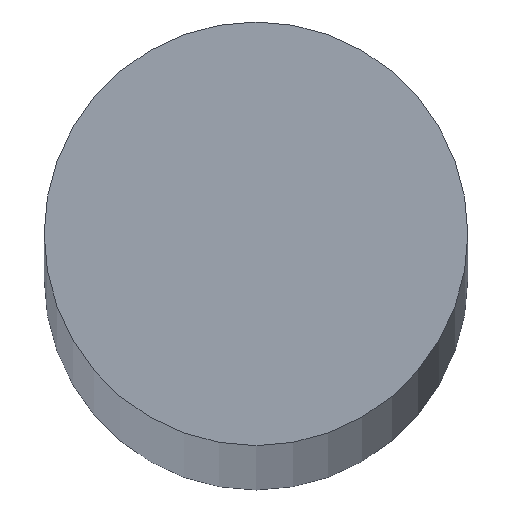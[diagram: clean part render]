
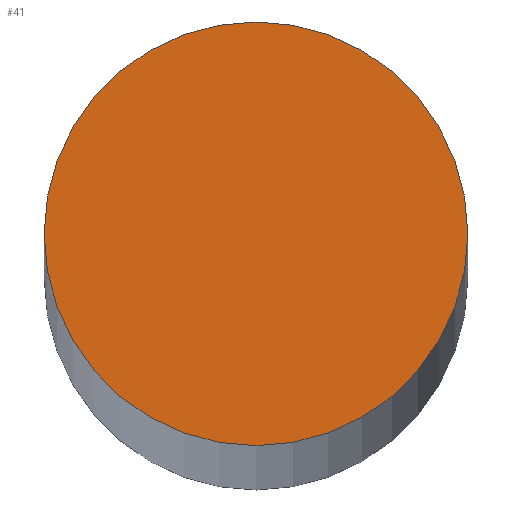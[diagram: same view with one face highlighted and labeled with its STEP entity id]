
A CAD part, top view. The second image highlights one B-rep face of the part: STEP entity #41.
In plain terms, the highlighted planar face has unit normal (0, 0, 1).
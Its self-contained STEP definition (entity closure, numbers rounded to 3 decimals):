
#16=PLANE('',#66);
#19=FACE_OUTER_BOUND('',#22,.T.);
#22=EDGE_LOOP('',(#37));
#25=CIRCLE('',#63,10.);
#27=VERTEX_POINT('',#82);
#29=EDGE_CURVE('',#27,#27,#25,.T.);
#37=ORIENTED_EDGE('',*,*,#29,.T.);
#41=ADVANCED_FACE('',(#19),#16,.T.);
#63=AXIS2_PLACEMENT_3D('',#83,#71,#72);
#66=AXIS2_PLACEMENT_3D('',#88,#78,#79);
#71=DIRECTION('center_axis',(0.,0.,1.));
#72=DIRECTION('ref_axis',(-1.,0.,0.));
#78=DIRECTION('center_axis',(0.,0.,1.));
#79=DIRECTION('ref_axis',(1.,0.,0.));
#82=CARTESIAN_POINT('',(10.,0.,1200.));
#83=CARTESIAN_POINT('Origin',(0.,0.,1200.));
#88=CARTESIAN_POINT('Origin',(0.,0.,1200.));
